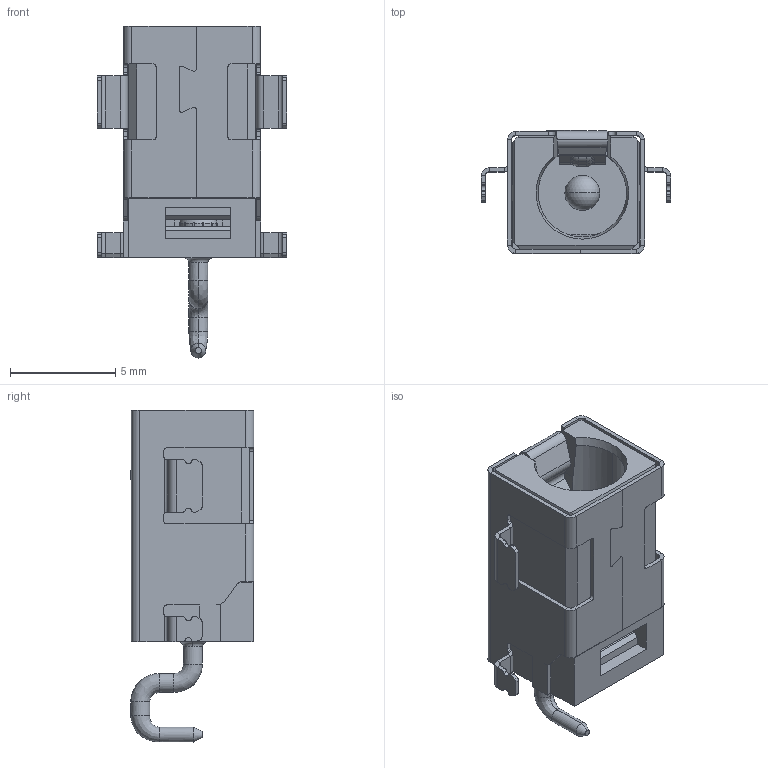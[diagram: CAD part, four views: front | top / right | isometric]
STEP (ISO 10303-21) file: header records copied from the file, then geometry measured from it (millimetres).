
FILE_DESCRIPTION (( 'STEP AP203' ), '1' );
FILE_NAME ('DC400170-1090-20000H.stp', '2023-07-04T02:19:56', ( '' ), ( '' ), 'SwSTEP 2.0', 'SolidWorks 2023', '' );
FILE_SCHEMA (( 'CONFIG_CONTROL_DESIGN' ));
Length unit declared in the file: millimetre
Products named in the file (1): DC400170-1090-20000H
Bounding box: 9 x 5.85 x 15.75 mm (x, y, z)
Volume: 275.2 mm3; surface area: 887.8 mm2
Topology: 1 solids, 2 shells, 847 faces, 2258 edges, 1425 vertices
Faces by surface type: plane 497, cylinder 214, bspline 96, cone 16, torus 14, sphere 10
Entity records: 31626 total; most frequent: CARTESIAN_POINT 10978, ORIENTED_EDGE 4508, DIRECTION 3927, EDGE_CURVE 2254, LINE 1567, VECTOR 1567, VERTEX_POINT 1423, AXIS2_PLACEMENT_3D 1180
